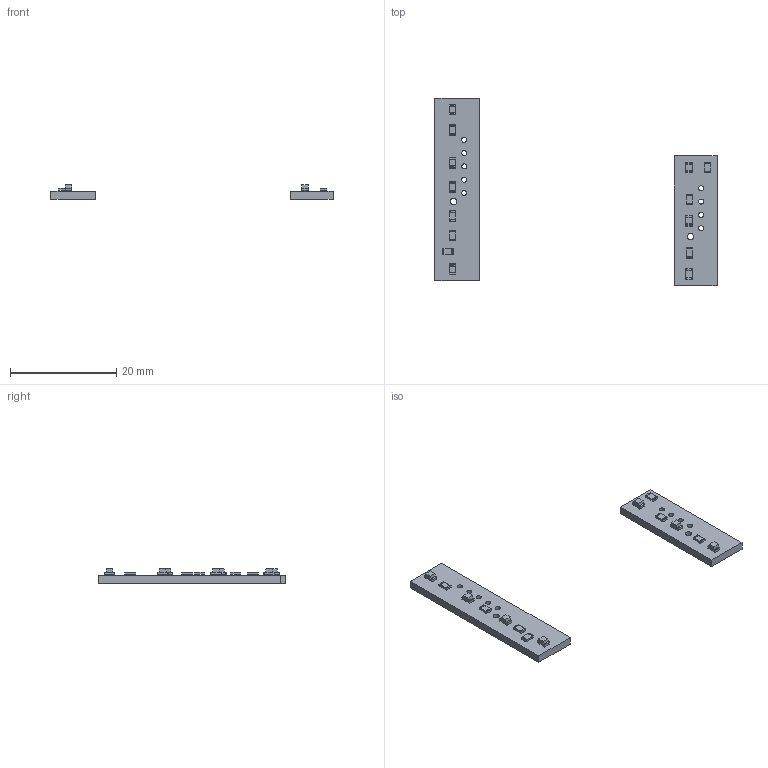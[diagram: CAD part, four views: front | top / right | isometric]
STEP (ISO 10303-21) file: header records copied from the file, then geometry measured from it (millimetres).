
FILE_DESCRIPTION(('KiCad electronic assembly'),'2;1');
FILE_NAME('Stoplight_Basys3.step','2026-11-14T21:34:15',('Pcbnew'),( 'Kicad'),'Open CASCADE STEP processor 7.9','KiCad to STEP converter' ,'Unknown');
FILE_SCHEMA(('AUTOMOTIVE_DESIGN { 1 0 10303 214 1 1 1 1 }'));
Length unit declared in the file: millimetre
Products named in the file (7): Stoplight_Basys3 1; R_0805_2012Metric; LED_0805_2012Metric; Sto897A_PCB_1; Sto897A_PCB_2
Assembly tree (18 placements, depth 3):
  Stoplight_Basys3 1
    R_0805_2012Metric  x7
      R_0805_2012Metric
    LED_0805_2012Metric  x7
      LED_0805_2012Metric
    Sto897A_PCB_1
    Sto897A_PCB_2
Bounding box: 53 x 35.2 x 2.69 mm (x, y, z)
Volume: 735 mm3; surface area: 1355 mm2
Topology: 16 solids, 16 shells, 555 faces, 1464 edges, 948 vertices
Faces by surface type: plane 432, cylinder 123
Full cylindrical faces by diameter (mm): 0.95 x9, 1.2 x2
Entity records: 3818 total; most frequent: DIRECTION 548, CARTESIAN_POINT 544, ORIENTED_EDGE 516, EDGE_CURVE 258, LINE 204, VECTOR 204, AXIS2_PLACEMENT_3D 172, VERTEX_POINT 168
